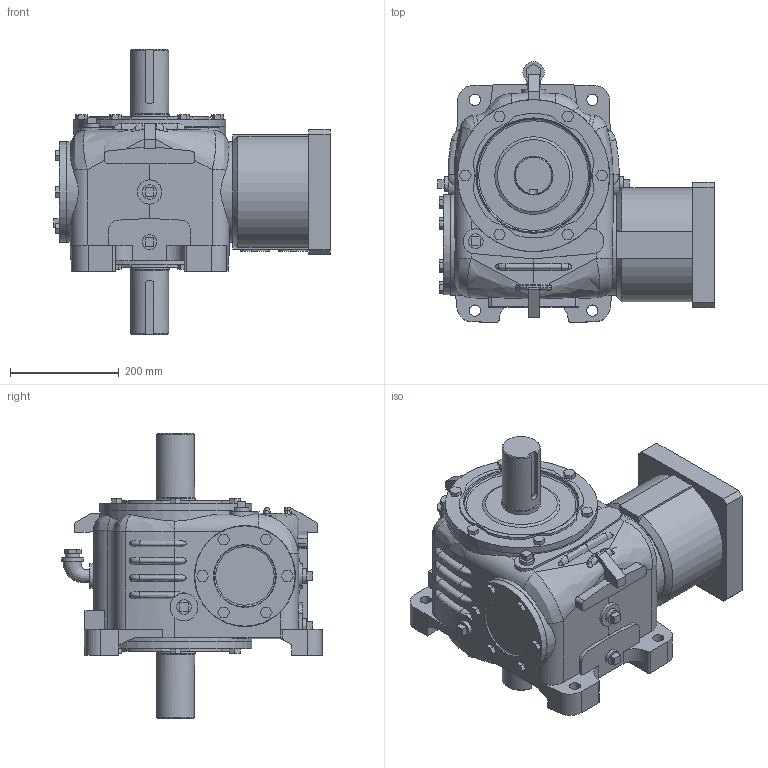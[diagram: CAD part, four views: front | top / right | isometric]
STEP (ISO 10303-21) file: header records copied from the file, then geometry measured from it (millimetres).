
FILE_DESCRIPTION(/* description */ ('Unknown'),/* implementation_level */ '2;1');
FILE_NAME(/* name */ 'V50CB-7CQ01NBD-',/* time_stamp */ '2024-11-21T11:30:29-05:00',/* author */ ('Unknown'),/* organization */ ('Unknown'),/* preprocessor_version */ 'ST-DEVELOPER v19.4',/* originating_system */ 'Solid Edge',/* authorisation */ 'Unknown');
FILE_SCHEMA (('AUTOMOTIVE_DESIGN {1 0 10303 214 3 1 1}'));
Length unit declared in the file: millimetre
Products named in the file (7): V50CB-7CQ01NBD-; 50-5-CP; 50-OUTS; 50-WCAP; 50-SM20-CP; MP4Q-01-CP; KM400-N-32
Assembly tree (7 placements, depth 2):
  V50CB-7CQ01NBD-
    50-5-CP
    50-OUTS  x2
    50-WCAP
    50-SM20-CP
    MP4Q-01-CP
    KM400-N-32
Bounding box: 507.35 x 478.44 x 523.82 mm (x, y, z)
Volume: 28961802.3 mm3; surface area: 1606563.1 mm2
Topology: 7 solids, 7 shells, 640 faces, 1587 edges, 1040 vertices
Faces by surface type: plane 397, cylinder 140, bspline 82, cone 16, torus 5
Full cylindrical faces by diameter (mm): 0.254 x9, 8.376 x4, 12.7 x8, 19.05 x6, 20.637 x4, 26.162 x1, 26.924 x5, 38.087 x1, 38.1 x1, 39.42 x1, 39.688 x1, 44.45 x2, 50.8 x2, 69.837 x2, 71.437 x2, 94 x1, 98.425 x1, 122 x1, 127 x1, 127.508 x1, 130 x1, 139 x1, 161.925 x1, 184.15 x1, 185.42 x2, 193.675 x1, 199.998 x1, 200 x1, 279.4 x4
Entity records: 21257 total; most frequent: CARTESIAN_POINT 7282, ORIENTED_EDGE 2586, DIRECTION 2428, EDGE_CURVE 1293, VERTEX_POINT 889, AXIS2_PLACEMENT_3D 810, LINE 808, VECTOR 808
